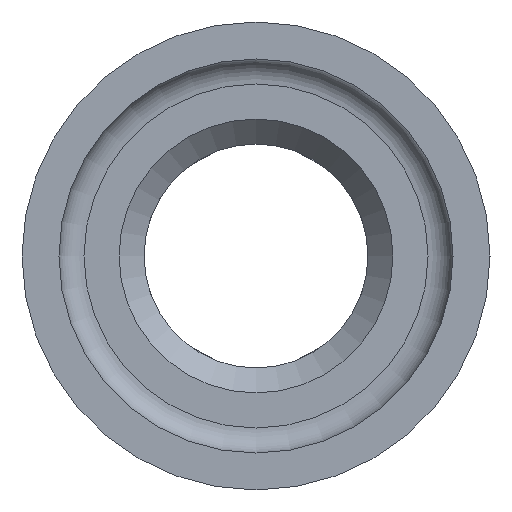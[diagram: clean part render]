
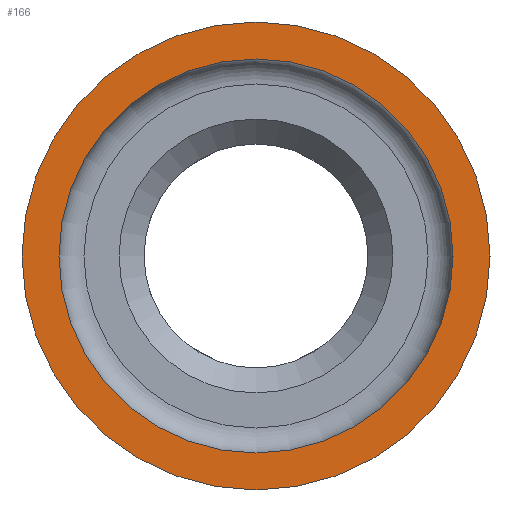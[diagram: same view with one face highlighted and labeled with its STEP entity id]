
A CAD part, left-side view. The second image highlights one B-rep face of the part: STEP entity #166.
In plain terms, the highlighted planar face has unit normal (-1, 0, 0).
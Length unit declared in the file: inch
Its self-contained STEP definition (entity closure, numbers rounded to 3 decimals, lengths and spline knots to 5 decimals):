
#90 = DIRECTION ( 'NONE',  ( 0., 0., 1. ) ) ;
#93 = EDGE_CURVE ( 'NONE', #173, #173, #682, .T. ) ;
#96 = EDGE_LOOP ( 'NONE', ( #518 ) ) ;
#123 = CARTESIAN_POINT ( 'NONE',  ( 0., 0., 0.07875 ) ) ;
#135 = CIRCLE ( 'NONE', #142, 0.09352 ) ;
#142 = AXIS2_PLACEMENT_3D ( 'NONE', #401, #507, #90 ) ;
#166 = ADVANCED_FACE ( 'NONE', ( #673, #664 ), #190, .F. ) ;
#171 = EDGE_CURVE ( 'NONE', #381, #381, #135, .T. ) ;
#173 = VERTEX_POINT ( 'NONE', #123 ) ;
#177 = AXIS2_PLACEMENT_3D ( 'NONE', #347, #553, #448 ) ;
#190 = PLANE ( 'NONE',  #582 ) ;
#200 = CARTESIAN_POINT ( 'NONE',  ( 0., 0.07875, 0. ) ) ;
#347 = CARTESIAN_POINT ( 'NONE',  ( 0., 0., 0. ) ) ;
#381 = VERTEX_POINT ( 'NONE', #503 ) ;
#401 = CARTESIAN_POINT ( 'NONE',  ( 0., 0., 0. ) ) ;
#411 = DIRECTION ( 'NONE',  ( 1., 0., 0. ) ) ;
#448 = DIRECTION ( 'NONE',  ( 0., 0., 1. ) ) ;
#503 = CARTESIAN_POINT ( 'NONE',  ( 0., 0., 0.09352 ) ) ;
#507 = DIRECTION ( 'NONE',  ( -1., 0., 0. ) ) ;
#518 = ORIENTED_EDGE ( 'NONE', *, *, #93, .F. ) ;
#553 = DIRECTION ( 'NONE',  ( -1., 0., 0. ) ) ;
#582 = AXIS2_PLACEMENT_3D ( 'NONE', #200, #411, #612 ) ;
#612 = DIRECTION ( 'NONE',  ( 0., 0., -1. ) ) ;
#622 = ORIENTED_EDGE ( 'NONE', *, *, #171, .T. ) ;
#643 = EDGE_LOOP ( 'NONE', ( #622 ) ) ;
#664 = FACE_OUTER_BOUND ( 'NONE', #643, .T. ) ;
#673 = FACE_BOUND ( 'NONE', #96, .T. ) ;
#682 = CIRCLE ( 'NONE', #177, 0.07875 ) ;
